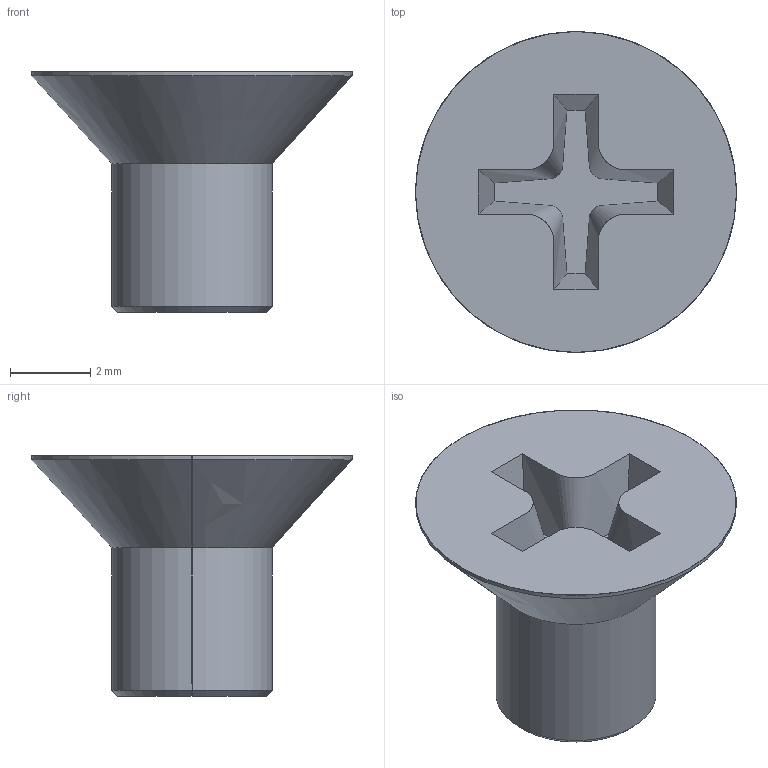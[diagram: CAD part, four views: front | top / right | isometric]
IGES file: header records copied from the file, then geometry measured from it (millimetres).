
Start section: SolidWorks IGES file using analytic representation for surfaces
Bounding box: 8 x 8 x 6 mm (x, y, z)
Surface area: 191.7 mm2 (no closed solid volume)
Topology: 0 solids, 0 shells, 19 faces, 196 edges, 196 vertices
Faces by surface type: bspline 11, revolution 8
